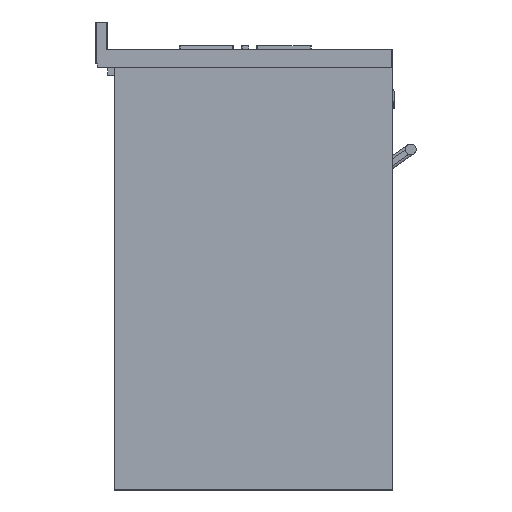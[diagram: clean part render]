
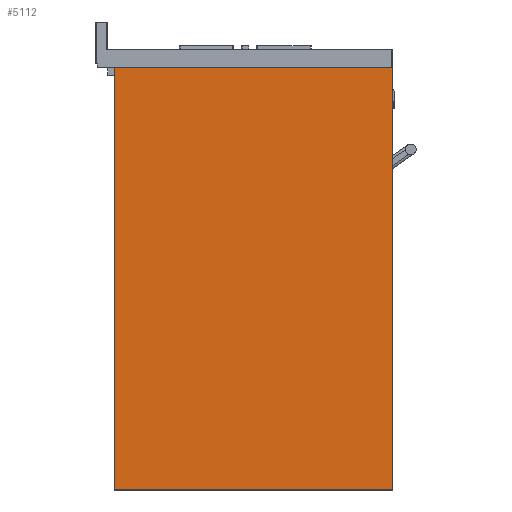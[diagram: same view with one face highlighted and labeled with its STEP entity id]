
A CAD part, left-side view. The second image highlights one B-rep face of the part: STEP entity #5112.
In plain terms, the highlighted planar face has unit normal (-1, 0, 0).
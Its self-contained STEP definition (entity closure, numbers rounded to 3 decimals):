
#2450=PLANE('',#35294);
#5112=ADVANCED_FACE('',(#6915),#2450,.F.);
#6915=FACE_OUTER_BOUND('',#8998,.T.);
#8998=EDGE_LOOP('',(#13998,#13999,#14000,#14001));
#13998=ORIENTED_EDGE('',*,*,#24894,.F.);
#13999=ORIENTED_EDGE('',*,*,#24903,.F.);
#14000=ORIENTED_EDGE('',*,*,#24900,.F.);
#14001=ORIENTED_EDGE('',*,*,#24897,.F.);
#21314=VERTEX_POINT('',#51828);
#21315=VERTEX_POINT('',#51830);
#21317=VERTEX_POINT('',#51836);
#21319=VERTEX_POINT('',#51842);
#24894=EDGE_CURVE('',#21314,#21315,#28851,.T.);
#24897=EDGE_CURVE('',#21315,#21317,#28854,.T.);
#24900=EDGE_CURVE('',#21317,#21319,#28857,.T.);
#24903=EDGE_CURVE('',#21319,#21314,#28860,.T.);
#28851=LINE('',#51829,#31745);
#28854=LINE('',#51835,#31748);
#28857=LINE('',#51841,#31751);
#28860=LINE('',#51846,#31754);
#31745=VECTOR('',#39950,1.);
#31748=VECTOR('',#39955,1.);
#31751=VECTOR('',#39960,1.);
#31754=VECTOR('',#39965,1.);
#35294=AXIS2_PLACEMENT_3D('',#51848,#39968,#39969);
#39950=DIRECTION('',(0.,1.,0.));
#39955=DIRECTION('',(0.,0.,1.));
#39960=DIRECTION('',(0.,-1.,0.));
#39965=DIRECTION('',(0.,0.,-1.));
#39968=DIRECTION('',(1.,0.,0.));
#39969=DIRECTION('',(0.,-1.,0.));
#51828=CARTESIAN_POINT('',(-114.934,-93.192,-11.445));
#51829=CARTESIAN_POINT('',(-114.934,-93.192,-11.445));
#51830=CARTESIAN_POINT('',(-114.934,471.808,-11.445));
#51835=CARTESIAN_POINT('',(-114.934,471.808,-11.445));
#51836=CARTESIAN_POINT('',(-114.934,471.808,846.555));
#51841=CARTESIAN_POINT('',(-114.934,471.808,846.555));
#51842=CARTESIAN_POINT('',(-114.934,-93.192,846.555));
#51846=CARTESIAN_POINT('',(-114.934,-93.192,846.555));
#51848=CARTESIAN_POINT('',(-114.934,471.808,-11.445));
